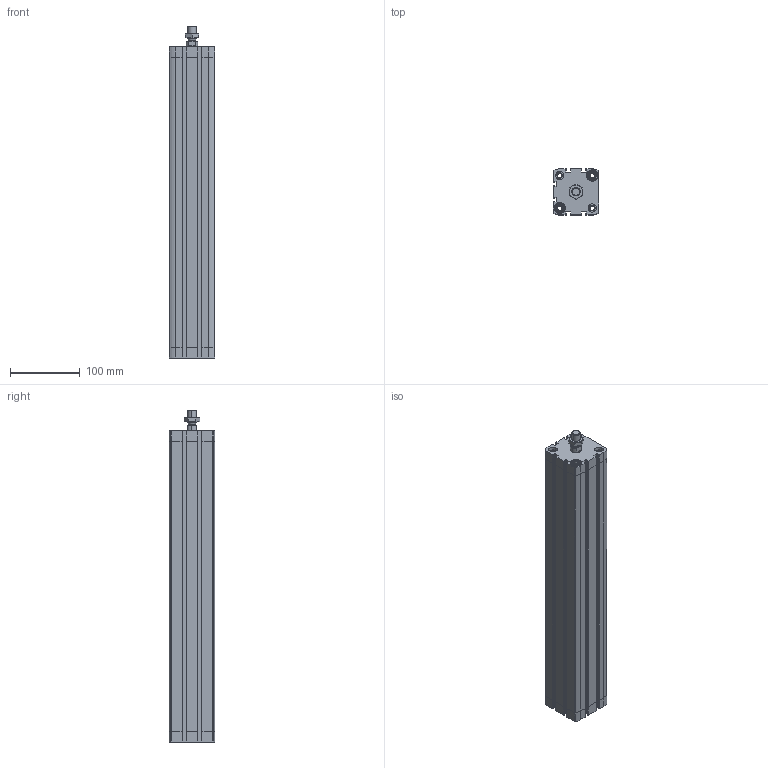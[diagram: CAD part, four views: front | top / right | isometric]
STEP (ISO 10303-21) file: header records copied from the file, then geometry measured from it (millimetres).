
FILE_DESCRIPTION (( 'STEP AP203' ), '1' );
FILE_NAME ('CCN50-400M.STEP', '2017-04-05T14:05:09', ( '' ), ( '' ), 'SwSTEP 2.0', 'SolidWorks 2016', '' );
FILE_SCHEMA (( 'CONFIG_CONTROL_DESIGN' ));
Length unit declared in the file: millimetre
Products named in the file (4): CCN-400---(Z); CCN-400_(KS); _DIN-439-B - M12x1.25(F); CCN50-400M
Assembly tree (3 placements, depth 2):
  CCN50-400M
    CCN-400---(Z)
    CCN-400_(KS)
    _DIN-439-B - M12x1.25(F)
Bounding box: 65.5 x 65.5 x 474.7 mm (x, y, z)
Volume: 1013731.6 mm3; surface area: 291509.6 mm2
Topology: 3 solids, 3 shells, 491 faces, 1326 edges, 872 vertices
Faces by surface type: plane 227, cylinder 212, cone 48, bspline 4
Entity records: 16172 total; most frequent: CARTESIAN_POINT 3155, DIRECTION 2692, ORIENTED_EDGE 2652, EDGE_CURVE 1326, AXIS2_PLACEMENT_3D 987, VERTEX_POINT 872, VECTOR 718, LINE 718
